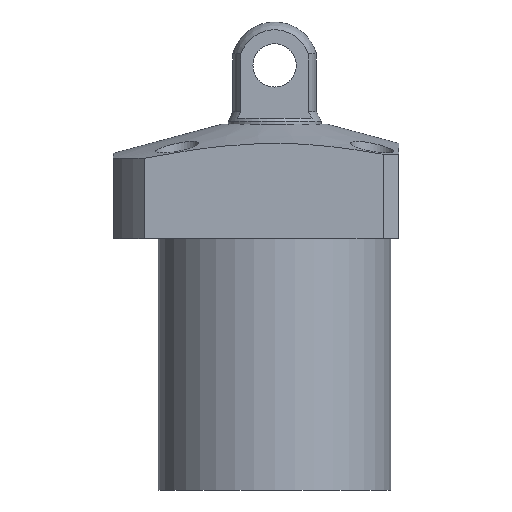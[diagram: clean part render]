
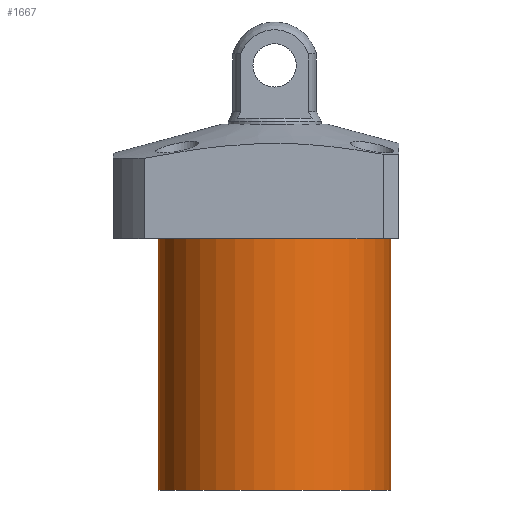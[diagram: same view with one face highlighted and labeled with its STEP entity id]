
A CAD part, front view. The second image highlights one B-rep face of the part: STEP entity #1667.
In plain terms, the highlighted cylindrical face has radius 37.5 mm (diameter 75 mm), a partial arc.
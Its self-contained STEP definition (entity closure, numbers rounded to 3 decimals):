
#36 = CARTESIAN_POINT ( 'NONE',  ( 37.5, 0., -99.5 ) ) ;
#101 = AXIS2_PLACEMENT_3D ( 'NONE', #1254, #1558, #818 ) ;
#121 = VERTEX_POINT ( 'NONE', #1728 ) ;
#151 = EDGE_CURVE ( 'NONE', #1665, #269, #957, .T. ) ;
#219 = CARTESIAN_POINT ( 'NONE',  ( 37.5, 0., -99.5 ) ) ;
#269 = VERTEX_POINT ( 'NONE', #2131 ) ;
#372 = LINE ( 'NONE', #829, #816 ) ;
#430 = DIRECTION ( 'NONE',  ( 0., 0., 1. ) ) ;
#486 = CYLINDRICAL_SURFACE ( 'NONE', #1494, 37.5 ) ;
#518 = AXIS2_PLACEMENT_3D ( 'NONE', #2175, #1244, #1828 ) ;
#692 = EDGE_CURVE ( 'NONE', #1428, #121, #372, .T. ) ;
#739 = ORIENTED_EDGE ( 'NONE', *, *, #151, .T. ) ;
#816 = VECTOR ( 'NONE', #430, 1000. ) ;
#818 = DIRECTION ( 'NONE',  ( -1., 0., 0. ) ) ;
#829 = CARTESIAN_POINT ( 'NONE',  ( -37.5, 0., -99.5 ) ) ;
#957 = LINE ( 'NONE', #36, #1876 ) ;
#984 = CARTESIAN_POINT ( 'NONE',  ( 0., 0., -99.5 ) ) ;
#1002 = DIRECTION ( 'NONE',  ( 1., 0., 0. ) ) ;
#1106 = FACE_OUTER_BOUND ( 'NONE', #2036, .T. ) ;
#1199 = EDGE_CURVE ( 'NONE', #1665, #1428, #1560, .T. ) ;
#1244 = DIRECTION ( 'NONE',  ( 0., 0., -1. ) ) ;
#1254 = CARTESIAN_POINT ( 'NONE',  ( 0., 0., -99.5 ) ) ;
#1325 = DIRECTION ( 'NONE',  ( 0., 0., 1. ) ) ;
#1330 = DIRECTION ( 'NONE',  ( 0., 0., 1. ) ) ;
#1428 = VERTEX_POINT ( 'NONE', #1462 ) ;
#1458 = ORIENTED_EDGE ( 'NONE', *, *, #2311, .T. ) ;
#1462 = CARTESIAN_POINT ( 'NONE',  ( -37.5, 0., -99.5 ) ) ;
#1494 = AXIS2_PLACEMENT_3D ( 'NONE', #984, #1325, #1002 ) ;
#1558 = DIRECTION ( 'NONE',  ( 0., 0., -1. ) ) ;
#1560 = CIRCLE ( 'NONE', #101, 37.5 ) ;
#1619 = CIRCLE ( 'NONE', #518, 37.5 ) ;
#1665 = VERTEX_POINT ( 'NONE', #219 ) ;
#1667 = ADVANCED_FACE ( 'NONE', ( #1106 ), #486, .T. ) ;
#1728 = CARTESIAN_POINT ( 'NONE',  ( -37.5, 0., -18.5 ) ) ;
#1828 = DIRECTION ( 'NONE',  ( 1., 0., 0. ) ) ;
#1876 = VECTOR ( 'NONE', #1330, 1000. ) ;
#1982 = ORIENTED_EDGE ( 'NONE', *, *, #1199, .F. ) ;
#2036 = EDGE_LOOP ( 'NONE', ( #2214, #1982, #739, #1458 ) ) ;
#2131 = CARTESIAN_POINT ( 'NONE',  ( 37.5, 0., -18.5 ) ) ;
#2175 = CARTESIAN_POINT ( 'NONE',  ( 0., 0., -18.5 ) ) ;
#2214 = ORIENTED_EDGE ( 'NONE', *, *, #692, .F. ) ;
#2311 = EDGE_CURVE ( 'NONE', #269, #121, #1619, .T. ) ;
